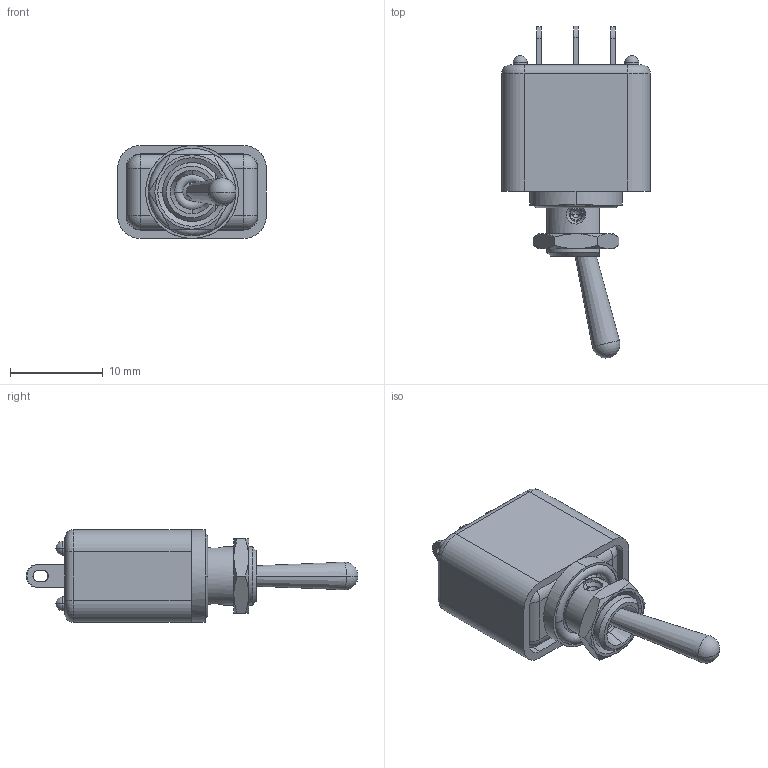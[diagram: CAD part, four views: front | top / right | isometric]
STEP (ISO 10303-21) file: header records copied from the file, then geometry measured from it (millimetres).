
FILE_DESCRIPTION((''),'2;1');
FILE_NAME('11136X778','2009-06-16T',('francis'),(''),'PRO/ENGINEER BY PARAMETRIC TECHNOLOGY CORPORATION, 2008400','PRO/ENGINEER BY PARAMETRIC TECHNOLOGY CORPORATION, 2008400','');
FILE_SCHEMA(('CONFIG_CONTROL_DESIGN'));
Length unit declared in the file: millimetre
Products named in the file (1): 11136X778
Bounding box: 16 x 35.78 x 10 mm (x, y, z)
Volume: 1161 mm3; surface area: 3176.1 mm2
Topology: 2 solids, 2 shells, 434 faces, 1170 edges, 738 vertices
Faces by surface type: plane 253, cylinder 91, cone 53, sphere 23, torus 14
Entity records: 14090 total; most frequent: CARTESIAN_POINT 3059, ORIENTED_EDGE 2312, DIRECTION 2285, EDGE_CURVE 1156, VECTOR 787, LINE 787, AXIS2_PLACEMENT_3D 749, VERTEX_POINT 738
